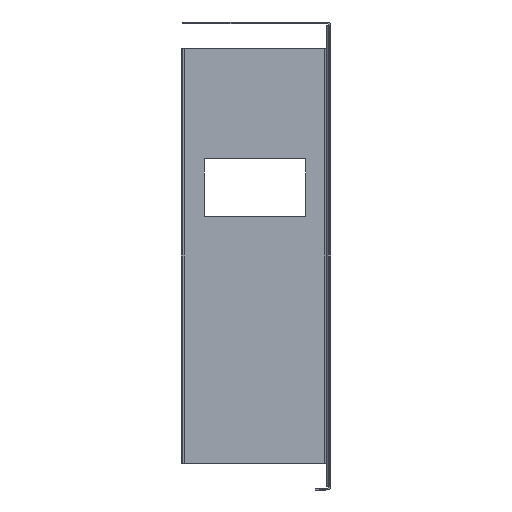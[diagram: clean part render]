
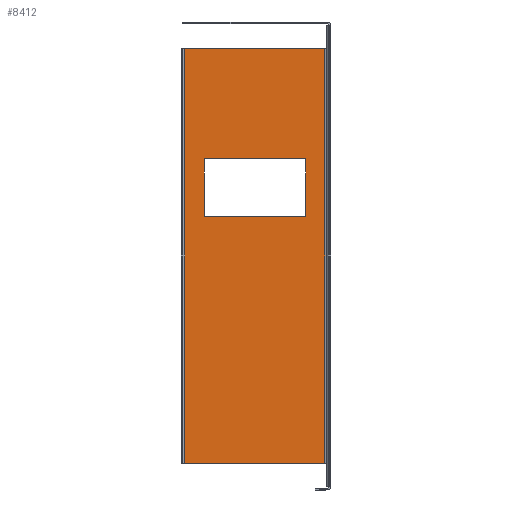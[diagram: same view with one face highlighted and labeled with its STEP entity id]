
A CAD part, left-side view. The second image highlights one B-rep face of the part: STEP entity #8412.
In plain terms, the highlighted planar face has unit normal (-1, 0, 0).
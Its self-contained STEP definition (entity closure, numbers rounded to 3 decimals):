
#5281 = CARTESIAN_POINT ( 'NONE',  ( 126.8, 1.8, 89.5 ) ) ;
#5518 = DIRECTION ( 'NONE',  ( 0., 1., 0. ) ) ;
#5519 = VECTOR ( 'NONE', #5518, 1000. ) ;
#5520 = CARTESIAN_POINT ( 'NONE',  ( 126.8, 1., 42. ) ) ;
#5524 = LINE ( 'NONE', #5520, #5519 ) ;
#5527 = DIRECTION ( 'NONE',  ( 0., -1., 0. ) ) ;
#5528 = DIRECTION ( 'NONE',  ( -1., 0., 0. ) ) ;
#5530 = CARTESIAN_POINT ( 'NONE',  ( 126.8, 1., -89.5 ) ) ;
#5531 = PLANE ( 'NONE',  #5532 ) ;
#5532 = AXIS2_PLACEMENT_3D ( 'NONE', #5530, #5528, #5527 ) ;
#5533 = FACE_OUTER_BOUND ( 'NONE', #8421, .T. ) ;
#5534 = FACE_BOUND ( 'NONE', #8360, .T. ) ;
#5535 = DIRECTION ( 'NONE',  ( 0., 0., -1. ) ) ;
#5536 = VECTOR ( 'NONE', #5535, 1000. ) ;
#5537 = CARTESIAN_POINT ( 'NONE',  ( 126.8, 1.8, 89.5 ) ) ;
#5538 = LINE ( 'NONE', #5537, #5536 ) ;
#5545 = DIRECTION ( 'NONE',  ( 0., 0., 1. ) ) ;
#5546 = VECTOR ( 'NONE', #5545, 1000. ) ;
#5547 = CARTESIAN_POINT ( 'NONE',  ( 126.8, 62.4, 89.5 ) ) ;
#5548 = LINE ( 'NONE', #5547, #5546 ) ;
#5586 = CARTESIAN_POINT ( 'NONE',  ( 126.8, 10.2, 17. ) ) ;
#5587 = DIRECTION ( 'NONE',  ( 0., 0., 1. ) ) ;
#5588 = VECTOR ( 'NONE', #5587, 1000. ) ;
#5589 = CARTESIAN_POINT ( 'NONE',  ( 126.8, 10.2, -89.5 ) ) ;
#5590 = LINE ( 'NONE', #5589, #5588 ) ;
#5627 = CARTESIAN_POINT ( 'NONE',  ( 126.8, 10.2, 42. ) ) ;
#5638 = CARTESIAN_POINT ( 'NONE',  ( 126.8, 62.4, -89.5 ) ) ;
#5639 = DIRECTION ( 'NONE',  ( 0., 1., 0. ) ) ;
#5640 = VECTOR ( 'NONE', #5639, 1000. ) ;
#5641 = CARTESIAN_POINT ( 'NONE',  ( 126.8, 62.4, -89.5 ) ) ;
#5642 = LINE ( 'NONE', #5641, #5640 ) ;
#5658 = CARTESIAN_POINT ( 'NONE',  ( 126.8, 62.4, 89.5 ) ) ;
#5697 = CARTESIAN_POINT ( 'NONE',  ( 126.8, 54., 42. ) ) ;
#5703 = CARTESIAN_POINT ( 'NONE',  ( 126.8, 1.8, -89.5 ) ) ;
#5704 = DIRECTION ( 'NONE',  ( 0., 0., -1. ) ) ;
#5705 = VECTOR ( 'NONE', #5704, 1000. ) ;
#5706 = CARTESIAN_POINT ( 'NONE',  ( 126.8, 54., -89.5 ) ) ;
#5707 = LINE ( 'NONE', #5706, #5705 ) ;
#5708 = CARTESIAN_POINT ( 'NONE',  ( 126.8, 54., 17. ) ) ;
#5709 = DIRECTION ( 'NONE',  ( 0., -1., 0. ) ) ;
#5710 = VECTOR ( 'NONE', #5709, 1000. ) ;
#5711 = CARTESIAN_POINT ( 'NONE',  ( 126.8, 1., 17. ) ) ;
#5712 = LINE ( 'NONE', #5711, #5710 ) ;
#5971 = DIRECTION ( 'NONE',  ( 0., -1., 0. ) ) ;
#5972 = VECTOR ( 'NONE', #5971, 1000. ) ;
#5973 = CARTESIAN_POINT ( 'NONE',  ( 126.8, 1., 89.5 ) ) ;
#5974 = LINE ( 'NONE', #5973, #5972 ) ;
#8255 = VERTEX_POINT ( 'NONE', #5281 ) ;
#8360 = EDGE_LOOP ( 'NONE', ( #8361, #8362, #8365, #8388 ) ) ;
#8361 = ORIENTED_EDGE ( 'NONE', *, *, #8417, .F. ) ;
#8362 = ORIENTED_EDGE ( 'NONE', *, *, #8363, .F. ) ;
#8363 = EDGE_CURVE ( 'NONE', #8364, #8435, #5590, .T. ) ;
#8364 = VERTEX_POINT ( 'NONE', #5586 ) ;
#8365 = ORIENTED_EDGE ( 'NONE', *, *, #8386, .F. ) ;
#8386 = EDGE_CURVE ( 'NONE', #8387, #8364, #5712, .T. ) ;
#8387 = VERTEX_POINT ( 'NONE', #5708 ) ;
#8388 = ORIENTED_EDGE ( 'NONE', *, *, #8389, .F. ) ;
#8389 = EDGE_CURVE ( 'NONE', #8398, #8387, #5707, .T. ) ;
#8391 = VERTEX_POINT ( 'NONE', #5703 ) ;
#8398 = VERTEX_POINT ( 'NONE', #5697 ) ;
#8403 = EDGE_CURVE ( 'NONE', #8432, #8477, #5548, .T. ) ;
#8410 = EDGE_CURVE ( 'NONE', #8255, #8391, #5538, .T. ) ;
#8412 = ADVANCED_FACE ( 'NONE', ( #5534, #5533 ), #5531, .T. ) ;
#8417 = EDGE_CURVE ( 'NONE', #8435, #8398, #5524, .T. ) ;
#8421 = EDGE_LOOP ( 'NONE', ( #8422, #8424, #8425, #8436 ) ) ;
#8422 = ORIENTED_EDGE ( 'NONE', *, *, #8431, .F. ) ;
#8424 = ORIENTED_EDGE ( 'NONE', *, *, #8410, .F. ) ;
#8425 = ORIENTED_EDGE ( 'NONE', *, *, #8495, .F. ) ;
#8431 = EDGE_CURVE ( 'NONE', #8391, #8432, #5642, .T. ) ;
#8432 = VERTEX_POINT ( 'NONE', #5638 ) ;
#8435 = VERTEX_POINT ( 'NONE', #5627 ) ;
#8436 = ORIENTED_EDGE ( 'NONE', *, *, #8403, .F. ) ;
#8477 = VERTEX_POINT ( 'NONE', #5658 ) ;
#8495 = EDGE_CURVE ( 'NONE', #8477, #8255, #5974, .T. ) ;
